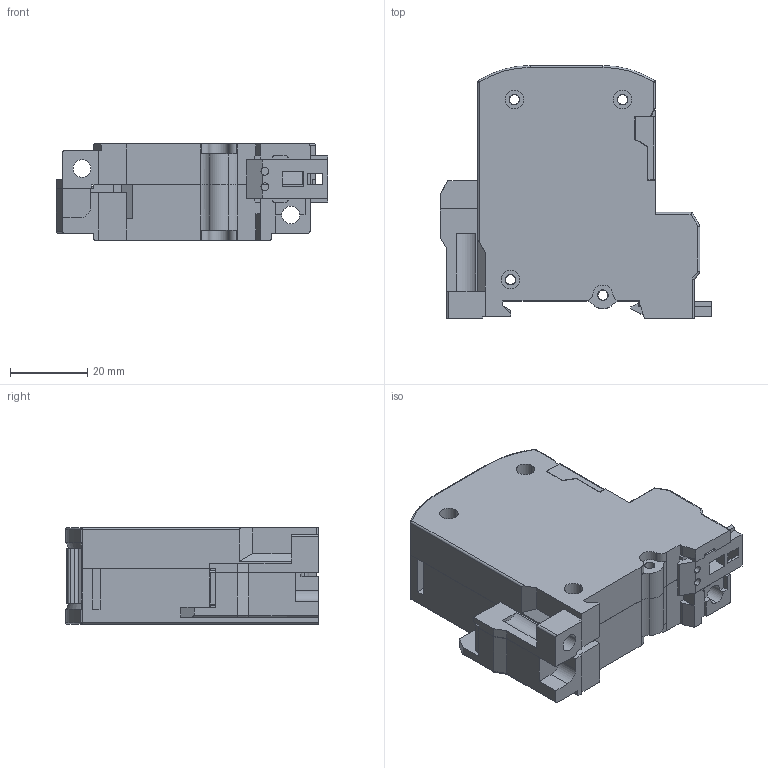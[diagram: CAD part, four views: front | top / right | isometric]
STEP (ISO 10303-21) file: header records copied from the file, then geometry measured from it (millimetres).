
FILE_DESCRIPTION (( 'STEP AP203' ), '1' );
FILE_NAME ('DCP50DF 寇屈档.STEP', '2024-10-22T00:05:26', ( '' ), ( '' ), 'SwSTEP 2.0', 'SolidWorks 2023', '' );
FILE_SCHEMA (( 'CONFIG_CONTROL_DESIGN' ));
Length unit declared in the file: millimetre
Products named in the file (8): DF Handle; DF Cover; DF50 Fixed Contact2; DF50 Back Terminal; DF50 Dust Cover; DF Base; DF Rail Body; DCP50DF 외형도
Assembly tree (7 placements, depth 2):
  DCP50DF 외형도
    DF Base
    DF Cover
    DF50 Fixed Contact2
    DF50 Back Terminal
    DF50 Dust Cover
    DF Handle
    DF Rail Body
Bounding box: 70.3 x 65.4 x 24.9 mm (x, y, z)
Volume: 41041.9 mm3; surface area: 28684.8 mm2
Topology: 7 solids, 7 shells, 611 faces, 1714 edges, 1122 vertices
Faces by surface type: plane 435, cylinder 145, cone 22, torus 5, sphere 4
Entity records: 20415 total; most frequent: CARTESIAN_POINT 3525, ORIENTED_EDGE 3428, DIRECTION 3250, EDGE_CURVE 1714, LINE 1376, VECTOR 1376, VERTEX_POINT 1122, AXIS2_PLACEMENT_3D 937
